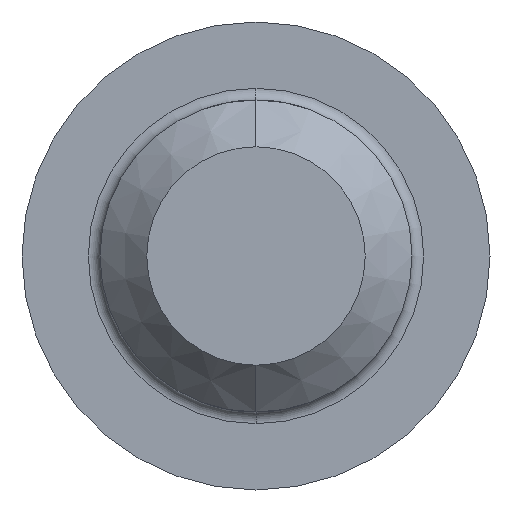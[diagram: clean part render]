
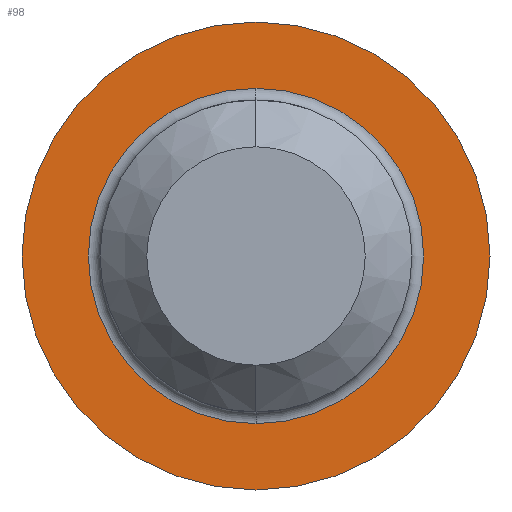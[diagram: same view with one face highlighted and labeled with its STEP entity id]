
A CAD part, left-side view. The second image highlights one B-rep face of the part: STEP entity #98.
In plain terms, the highlighted planar face has unit normal (-1, 0, 0).
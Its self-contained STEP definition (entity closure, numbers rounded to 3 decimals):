
#14 = VERTEX_POINT ( 'NONE', #196 ) ;
#21 = VERTEX_POINT ( 'NONE', #198 ) ;
#36 = EDGE_CURVE ( 'NONE', #14, #21, #220, .T. ) ;
#51 = ORIENTED_EDGE ( 'NONE', *, *, #56, .T. ) ;
#54 = EDGE_LOOP ( 'NONE', ( #102, #103 ) ) ;
#55 = EDGE_CURVE ( 'NONE', #130, #122, #230, .T. ) ;
#56 = EDGE_CURVE ( 'NONE', #21, #14, #226, .T. ) ;
#98 = ADVANCED_FACE ( 'NONE', ( #332, #319 ), #355, .F. ) ;
#99 = ORIENTED_EDGE ( 'NONE', *, *, #36, .T. ) ;
#101 = EDGE_LOOP ( 'NONE', ( #99, #51 ) ) ;
#102 = ORIENTED_EDGE ( 'NONE', *, *, #55, .T. ) ;
#103 = ORIENTED_EDGE ( 'NONE', *, *, #160, .T. ) ;
#122 = VERTEX_POINT ( 'NONE', #345 ) ;
#130 = VERTEX_POINT ( 'NONE', #400 ) ;
#160 = EDGE_CURVE ( 'NONE', #122, #130, #254, .T. ) ;
#165 = AXIS2_PLACEMENT_3D ( 'NONE', #169, #168, #173 ) ;
#168 = DIRECTION ( 'NONE',  ( -1., 0., 0. ) ) ;
#169 = CARTESIAN_POINT ( 'NONE',  ( 0., 0., 0. ) ) ;
#173 = DIRECTION ( 'NONE',  ( 0., 0., 1. ) ) ;
#174 = DIRECTION ( 'NONE',  ( 0., 0., -1. ) ) ;
#189 = DIRECTION ( 'NONE',  ( 0., 0., 1. ) ) ;
#196 = CARTESIAN_POINT ( 'NONE',  ( 0., 0., 6. ) ) ;
#198 = CARTESIAN_POINT ( 'NONE',  ( 0., 0., -6. ) ) ;
#220 = CIRCLE ( 'NONE', #165, 6. ) ;
#225 = AXIS2_PLACEMENT_3D ( 'NONE', #231, #236, #189 ) ;
#226 = CIRCLE ( 'NONE', #225, 6. ) ;
#227 = DIRECTION ( 'NONE',  ( 1., 0., 0. ) ) ;
#228 = CARTESIAN_POINT ( 'NONE',  ( 0., 0., 0. ) ) ;
#229 = AXIS2_PLACEMENT_3D ( 'NONE', #228, #227, #174 ) ;
#230 = CIRCLE ( 'NONE', #229, 4.3 ) ;
#231 = CARTESIAN_POINT ( 'NONE',  ( 0., 0., 0. ) ) ;
#236 = DIRECTION ( 'NONE',  ( -1., 0., 0. ) ) ;
#254 = CIRCLE ( 'NONE', #424, 4.3 ) ;
#318 = DIRECTION ( 'NONE',  ( 1., 0., 0. ) ) ;
#319 = FACE_OUTER_BOUND ( 'NONE', #101, .T. ) ;
#325 = AXIS2_PLACEMENT_3D ( 'NONE', #354, #318, #439 ) ;
#332 = FACE_BOUND ( 'NONE', #54, .T. ) ;
#345 = CARTESIAN_POINT ( 'NONE',  ( 0., 0., 4.3 ) ) ;
#354 = CARTESIAN_POINT ( 'NONE',  ( 0., 6., 0. ) ) ;
#355 = PLANE ( 'NONE',  #325 ) ;
#400 = CARTESIAN_POINT ( 'NONE',  ( 0., 0., -4.3 ) ) ;
#418 = DIRECTION ( 'NONE',  ( 0., 0., -1. ) ) ;
#419 = DIRECTION ( 'NONE',  ( 1., 0., 0. ) ) ;
#423 = CARTESIAN_POINT ( 'NONE',  ( 0., 0., 0. ) ) ;
#424 = AXIS2_PLACEMENT_3D ( 'NONE', #423, #419, #418 ) ;
#439 = DIRECTION ( 'NONE',  ( 0., 0., -1. ) ) ;
